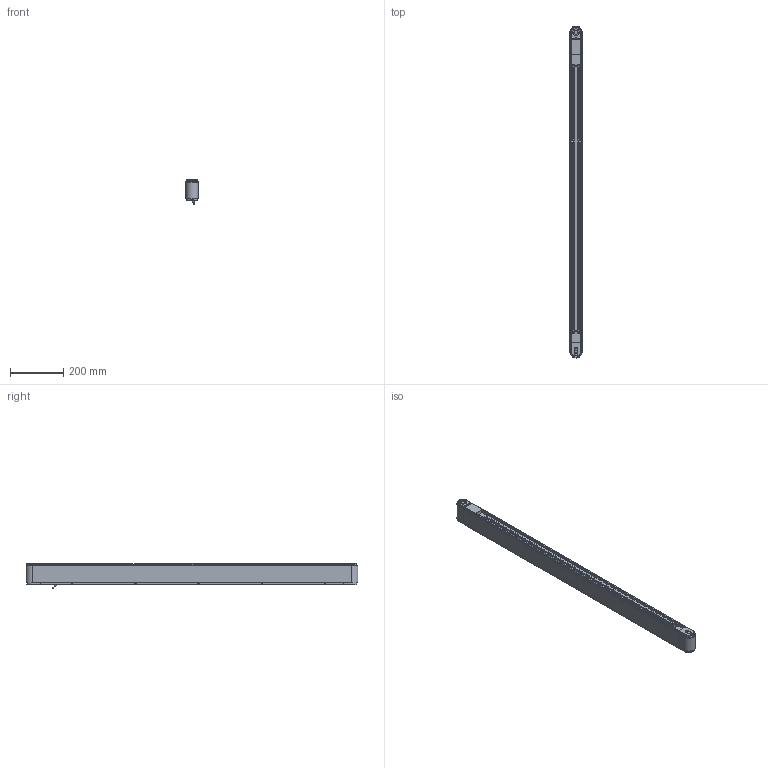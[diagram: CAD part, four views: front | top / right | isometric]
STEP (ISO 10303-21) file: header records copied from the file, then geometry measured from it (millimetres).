
FILE_DESCRIPTION(/* description */ (''),/* implementation_level */ '2;1');
FILE_NAME(/* name */ 'G:\DATEN\CAD\Förderband\Marketing\3D-Modelle (Standard)\FR-40-80\FR-40-80-1200-K.stp',/* time_stamp */ '2019-05-08T08:21:02+02:00',/* author */ ('melanie.ochs'),/* organization */ (''),/* preprocessor_version */ 'ST-DEVELOPER v17',/* originating_system */ 'Autodesk Inventor 2019',/* authorisation */ '');
FILE_SCHEMA (('CONFIG_CONTROL_DESIGN'));
Length unit declared in the file: centimetre
Products named in the file (1): FR-40-80-1200-K
Bounding box: 46.6 x 1246.6 x 92.69 mm (x, y, z)
Volume: 1669771 mm3; surface area: 1002528.2 mm2
Topology: 1 solids, 25 shells, 1035 faces, 2835 edges, 1890 vertices
Faces by surface type: plane 531, cylinder 285, bspline 122, cone 67, torus 30
Full cylindrical faces by diameter (mm): 1 x6, 4 x6, 4.3 x4, 4.64 x2, 4.917 x1, 5 x11, 5.5 x8, 6 x4, 6.773 x1, 8 x4, 8.3 x10, 8.5 x8, 8.773 x1, 10 x1, 11 x1, 12 x3, 15 x4, 20 x2, 25 x2, 28 x4
Entity records: 35417 total; most frequent: CARTESIAN_POINT 8378, ORIENTED_EDGE 5650, DIRECTION 5128, EDGE_CURVE 2825, VERTEX_POINT 1890, AXIS2_PLACEMENT_3D 1784, LINE 1560, VECTOR 1560
